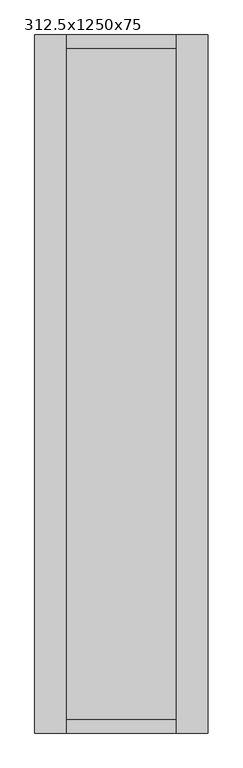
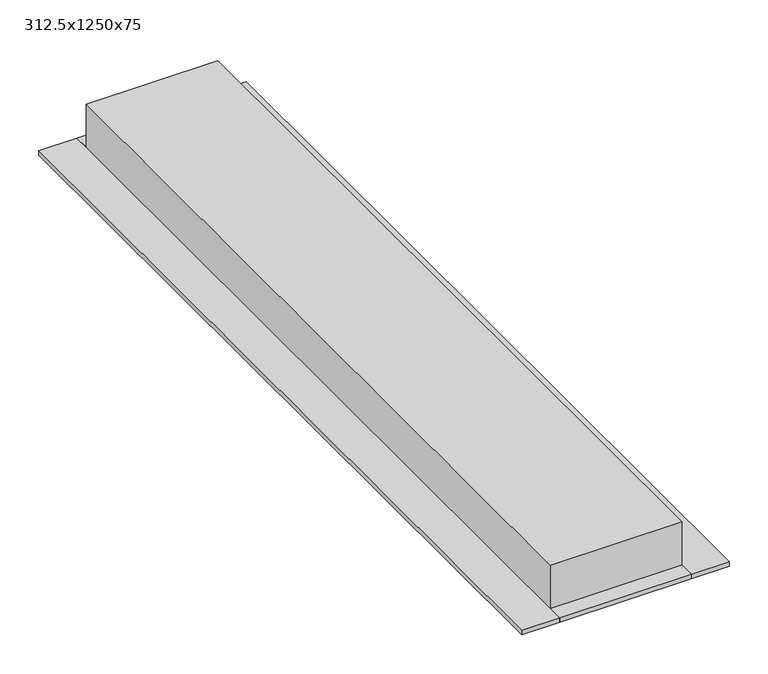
"""IFC4 building model written with IfcOpenShell, lengths in millimetres: light fixture geometry, OWA Lifetime LED : 312.5x1250x75."""

from ifc_helpers import new_model, si_unit, frame, origin, place, context, project, spatial, polyline, outline, extrude, faceted_brep, source, transform, mapped, element, save


def light_fixture_312_5x1250x75_8dd1f42e(model_context):
    return source(origin(), model_context, "Body", "SolidModel", [
        faceted_brep([(98.05, 599.0, 4075.0), (-98.05, 599.0, 4075.0), (-98.05, -599.0, 4075.0), (98.05, -599.0, 4075.0), (75.55, 577.8, 4014.0), (75.55, -577.8, 4014.0), (-75.55, -577.8, 4014.0), (-75.55, 577.8, 4014.0), (98.05, 599.0, 4000.0), (-98.05, 599.0, 4000.0), (-98.05, -599.0, 4000.0), (98.05, -599.0, 4000.0), (75.55, 577.8, 4000.0), (-75.55, 577.8, 4000.0), (-75.55, -577.8, 4000.0), (75.55, -577.8, 4000.0)], [[[0, 1, 2, 3]], [[4, 5, 6, 7]], [[1, 0, 8, 9]], [[2, 1, 9, 10]], [[3, 2, 10, 11]], [[8, 0, 3, 11]], [[8, 11, 10, 9], [12, 13, 14, 15]], [[12, 15, 5, 4]], [[15, 14, 6, 5]], [[14, 13, 7, 6]], [[13, 12, 4, 7]]]),
        extrude(outline(polyline([(75.55, 577.8), (75.55, -577.8), (-75.55, -577.8), (-75.55, 577.8), (75.55, 577.8)])), frame((0.0, 0.0, 4000.0), z_axis=(0.0, 0.0, 1.0), x_axis=(1.0, 0.0, 0.0)), (0.0, 0.0, 1.0), 7.0),
        extrude(outline(polyline([(98.05, 623.5), (98.05, 599.0), (-98.05, 599.0), (-98.05, 623.5), (98.05, 623.5)])), frame((0.0, 0.0, 4000.0), z_axis=(0.0, 0.0, 1.0), x_axis=(1.0, 0.0, 0.0)), (0.0, 0.0, 1.0), 7.0),
        extrude(outline(polyline([(98.05, -623.5), (-98.05, -623.5), (-98.05, -599.0), (98.05, -599.0), (98.05, -623.5)])), frame((0.0, 0.0, 4000.0), z_axis=(0.0, 0.0, 1.0), x_axis=(1.0, 0.0, 0.0)), (0.0, 0.0, 1.0), 7.0),
        extrude(outline(polyline([(-98.05, 623.5), (-98.05, -623.5), (-154.75, -623.5), (-154.75, 623.5), (-98.05, 623.5)])), frame((0.0, 0.0, 4000.0), z_axis=(0.0, 0.0, 1.0), x_axis=(1.0, 0.0, 0.0)), (0.0, 0.0, 1.0), 7.0),
        extrude(outline(polyline([(98.05, 623.5), (154.75, 623.5), (154.75, -623.5), (98.05, -623.5), (98.05, 623.5)])), frame((0.0, 0.0, 4000.0), z_axis=(0.0, 0.0, 1.0), x_axis=(1.0, 0.0, 0.0)), (0.0, 0.0, 1.0), 7.0),
    ])


if __name__ == "__main__":
    model = new_model("IFC4")
    model_context = context("Model", 3, world=origin())
    ifc_project = project(units=[si_unit("LENGTHUNIT", "METRE", prefix="MILLI")], contexts=[model_context])
    site = spatial("IfcSite", under=ifc_project)
    building = spatial("IfcBuilding", under=site)
    placement = place(None, origin())
    light_fixture_312_5x1250x75_shape = light_fixture_312_5x1250x75_8dd1f42e(model_context)
    element("IfcLightFixture", 1, ObjectType="OWA Lifetime LED : 312.5x1250x75", at=placement, inside=building, context=model_context, shape_type="MappedRepresentation", body=[
        mapped(light_fixture_312_5x1250x75_shape, transform((0.0, 0.0, 0.0), x_axis=(1.0, 0.0, 0.0), y_axis=(0.0, 1.0, 0.0), z_axis=(0.0, 0.0, 1.0))),
    ])
    save(model, "model.ifc")
